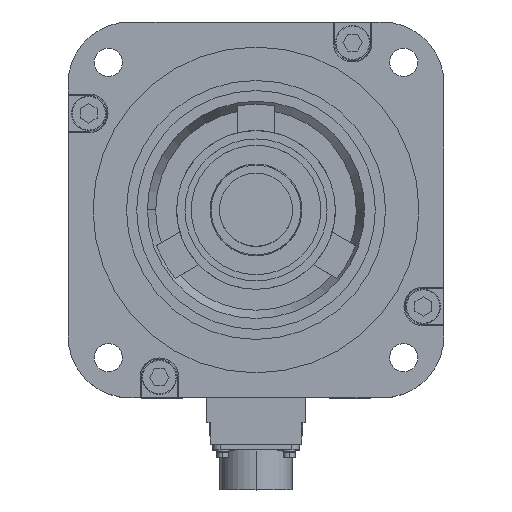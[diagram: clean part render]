
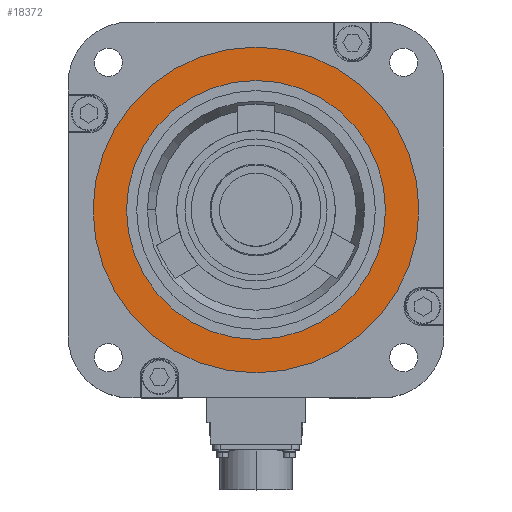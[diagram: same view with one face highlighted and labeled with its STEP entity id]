
A CAD part, top view. The second image highlights one B-rep face of the part: STEP entity #18372.
In plain terms, the highlighted planar face has unit normal (0, 0, 1).
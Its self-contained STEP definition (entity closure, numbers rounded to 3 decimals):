
#305 = CARTESIAN_POINT ( 'NONE',  ( 78., 0., -0.5 ) ) ;
#412 = CARTESIAN_POINT ( 'NONE',  ( -78., 0., -0.5 ) ) ;
#523 = DIRECTION ( 'NONE',  ( 1., 0., 0. ) ) ;
#524 = DIRECTION ( 'NONE',  ( 0., 0., 1. ) ) ;
#525 = CARTESIAN_POINT ( 'NONE',  ( 0., 0., -0.5 ) ) ;
#526 = AXIS2_PLACEMENT_3D ( 'NONE', #525, #524, #523 ) ;
#527 = CIRCLE ( 'NONE', #526, 78. ) ;
#4209 = DIRECTION ( 'NONE',  ( 1., 0., 0. ) ) ;
#4210 = DIRECTION ( 'NONE',  ( 0., 0., 1. ) ) ;
#4211 = CARTESIAN_POINT ( 'NONE',  ( 0., 0., -0.5 ) ) ;
#4212 = AXIS2_PLACEMENT_3D ( 'NONE', #4211, #4210, #4209 ) ;
#4213 = CIRCLE ( 'NONE', #4212, 78. ) ;
#4253 = DIRECTION ( 'NONE',  ( 1., 0., 0. ) ) ;
#4254 = DIRECTION ( 'NONE',  ( 0., 0., 1. ) ) ;
#4255 = CARTESIAN_POINT ( 'NONE',  ( 0., 0., -0.5 ) ) ;
#4256 = AXIS2_PLACEMENT_3D ( 'NONE', #4255, #4254, #4253 ) ;
#4257 = PLANE ( 'NONE',  #4256 ) ;
#4258 = FACE_BOUND ( 'NONE', #6717, .T. ) ;
#4259 = FACE_OUTER_BOUND ( 'NONE', #18912, .T. ) ;
#5368 = DIRECTION ( 'NONE',  ( 1., 0., 0. ) ) ;
#5369 = DIRECTION ( 'NONE',  ( 0., 0., 1. ) ) ;
#5370 = CARTESIAN_POINT ( 'NONE',  ( 0., 0., -0.5 ) ) ;
#5371 = AXIS2_PLACEMENT_3D ( 'NONE', #5370, #5369, #5368 ) ;
#5372 = CIRCLE ( 'NONE', #5371, 62. ) ;
#6347 = VERTEX_POINT ( 'NONE', #16548 ) ;
#6717 = EDGE_LOOP ( 'NONE', ( #6718, #18918 ) ) ;
#6718 = ORIENTED_EDGE ( 'NONE', *, *, #18972, .F. ) ;
#6754 = ORIENTED_EDGE ( 'NONE', *, *, #14411, .T. ) ;
#8618 = EDGE_CURVE ( 'NONE', #8661, #6347, #21900, .T. ) ;
#8661 = VERTEX_POINT ( 'NONE', #21955 ) ;
#14290 = VERTEX_POINT ( 'NONE', #305 ) ;
#14364 = VERTEX_POINT ( 'NONE', #412 ) ;
#14411 = EDGE_CURVE ( 'NONE', #14364, #14290, #527, .T. ) ;
#16548 = CARTESIAN_POINT ( 'NONE',  ( -62., 0., -0.5 ) ) ;
#18300 = ORIENTED_EDGE ( 'NONE', *, *, #18318, .T. ) ;
#18318 = EDGE_CURVE ( 'NONE', #14290, #14364, #4213, .T. ) ;
#18372 = ADVANCED_FACE ( 'NONE', ( #4259, #4258 ), #4257, .T. ) ;
#18912 = EDGE_LOOP ( 'NONE', ( #18300, #6754 ) ) ;
#18918 = ORIENTED_EDGE ( 'NONE', *, *, #8618, .F. ) ;
#18972 = EDGE_CURVE ( 'NONE', #6347, #8661, #5372, .T. ) ;
#21896 = DIRECTION ( 'NONE',  ( 1., 0., 0. ) ) ;
#21897 = DIRECTION ( 'NONE',  ( 0., 0., 1. ) ) ;
#21898 = CARTESIAN_POINT ( 'NONE',  ( 0., 0., -0.5 ) ) ;
#21899 = AXIS2_PLACEMENT_3D ( 'NONE', #21898, #21897, #21896 ) ;
#21900 = CIRCLE ( 'NONE', #21899, 62. ) ;
#21955 = CARTESIAN_POINT ( 'NONE',  ( 62., 0., -0.5 ) ) ;
